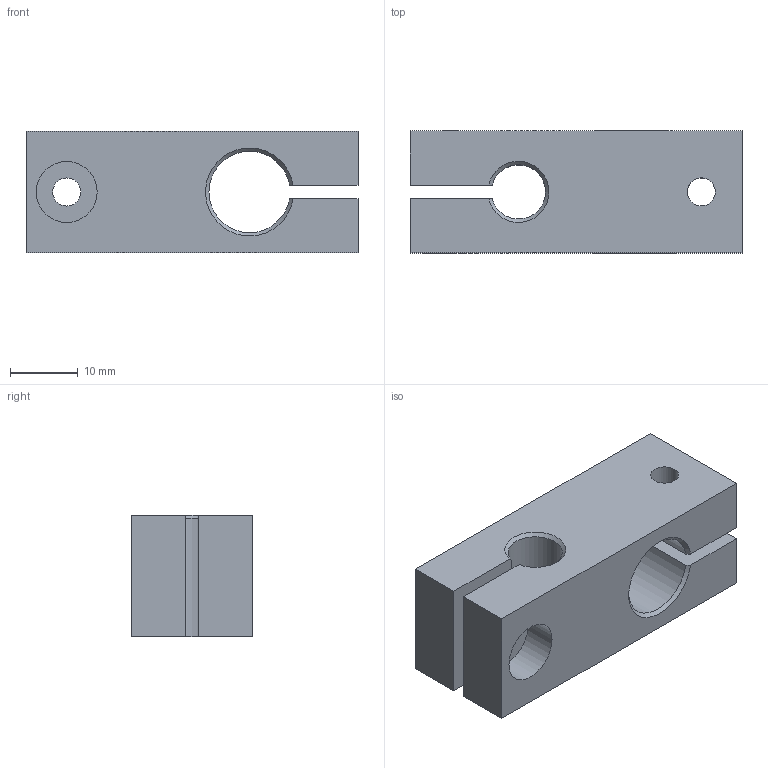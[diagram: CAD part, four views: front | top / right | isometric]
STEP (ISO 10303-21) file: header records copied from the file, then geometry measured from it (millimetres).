
FILE_DESCRIPTION(('FreeCAD Model'),'2;1');
FILE_NAME('Open CASCADE Shape Model','2021-05-04T13:45:14',('Author'),( ''),'Open CASCADE STEP processor 7.5','FreeCAD','Unknown');
FILE_SCHEMA(('AUTOMOTIVE_DESIGN { 1 0 10303 214 1 1 1 1 }'));
Length unit declared in the file: millimetre
Products named in the file (1): cross-clamp-8-8
Bounding box: 49 x 18 x 18 mm (x, y, z)
Volume: 11201.9 mm3; surface area: 5991 mm2
Topology: 1 solids, 1 shells, 24 faces, 62 edges, 42 vertices
Faces by surface type: plane 14, cylinder 8, cone 2
Full cylindrical faces by diameter (mm): 4.134 x4, 9 x2
Entity records: 1766 total; most frequent: CARTESIAN_POINT 311, DIRECTION 234, LINE 130, VECTOR 130, ORIENTED_EDGE 124, PCURVE 124, DEFINITIONAL_REPRESENTATION 124, EDGE_CURVE 62
